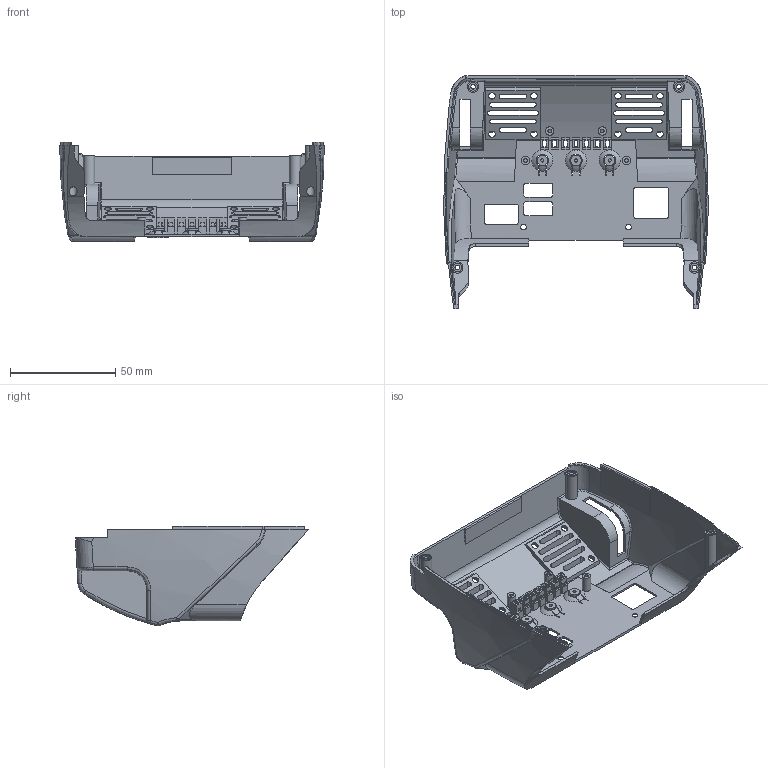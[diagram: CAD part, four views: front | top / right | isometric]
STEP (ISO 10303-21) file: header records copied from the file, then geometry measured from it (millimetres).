
FILE_DESCRIPTION((''),'2;1');
FILE_NAME('DARWIN-OP2_CVR_BODY_B_PRT','2016-08-12T',('kimdolyang'),(''),'PRO/ENGINEER BY PARAMETRIC TECHNOLOGY CORPORATION, 2013410','PRO/ENGINEER BY PARAMETRIC TECHNOLOGY CORPORATION, 2013410','');
FILE_SCHEMA(('AUTOMOTIVE_DESIGN { 1 0 10303 214 1 1 1 1 }'));
Length unit declared in the file: millimetre
Products named in the file (1): DARWIN-OP2_CVR_BODY_B_PRT
Bounding box: 125.9 x 110.99 x 47.48 mm (x, y, z)
Volume: 28087.8 mm3; surface area: 45898.2 mm2
Topology: 1 solids, 1 shells, 674 faces, 2109 edges, 1420 vertices
Faces by surface type: plane 318, cylinder 214, bspline 44, torus 34, extrusion 22, sphere 22, cone 20
Entity records: 32893 total; most frequent: CARTESIAN_POINT 7895, ORIENTED_EDGE 4198, DIRECTION 3503, PRESENTATION_STYLE_ASSIGNMENT 2100, STYLED_ITEM 2100, CURVE_STYLE 2099, EDGE_CURVE 2099, VERTEX_POINT 1420
